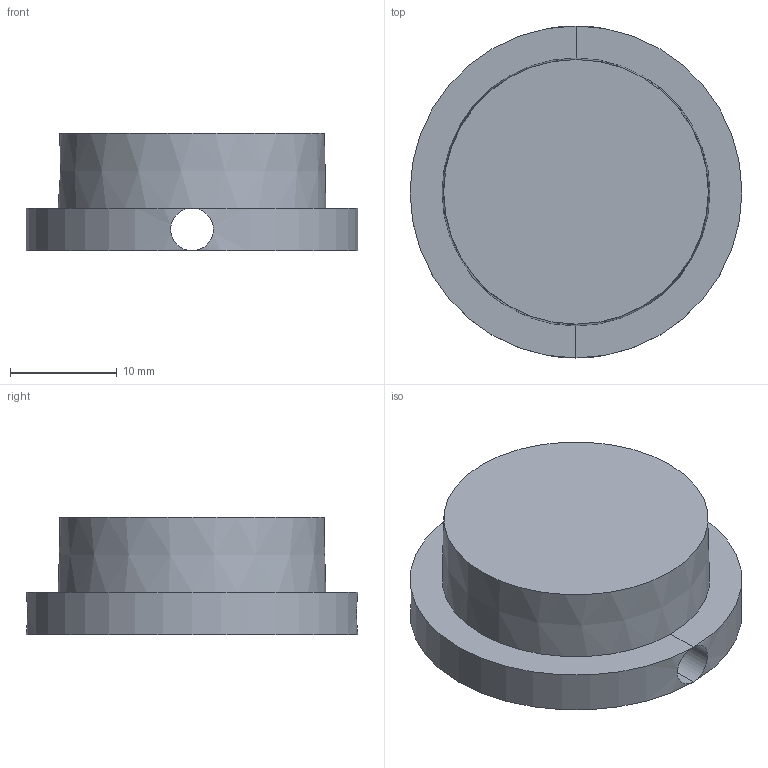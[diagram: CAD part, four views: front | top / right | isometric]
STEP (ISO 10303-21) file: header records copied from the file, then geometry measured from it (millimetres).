
FILE_DESCRIPTION(('Open CASCADE Model'),'2;1');
FILE_NAME('MW-P-003_REAR_CAP_WITH_LANYARD','2026-08-22T00:00:00',( 'Author'),('Open CASCADE'),'Open CASCADE STEP processor 7.8', 'build123d','Unknown');
FILE_SCHEMA(('AUTOMOTIVE_DESIGN { 1 0 10303 214 1 1 1 1 }'));
Length unit declared in the file: millimetre
Products named in the file (1): MW-P-003_REAR_CAP_WITH_LANYARD
Bounding box: 31.1 x 31.1 x 11 mm (x, y, z)
Volume: 6071 mm3; surface area: 2811.2 mm2
Topology: 1 solids, 1 shells, 10 faces, 19 edges, 10 vertices
Faces by surface type: plane 5, cylinder 4, cone 1
Entity records: 1238 total; most frequent: CARTESIAN_POINT 850, DIRECTION 62, ORIENTED_EDGE 40, PCURVE 38, DEFINITIONAL_REPRESENTATION 38, B_SPLINE_CURVE_WITH_KNOTS 24, AXIS2_PLACEMENT_3D 19, EDGE_CURVE 19
